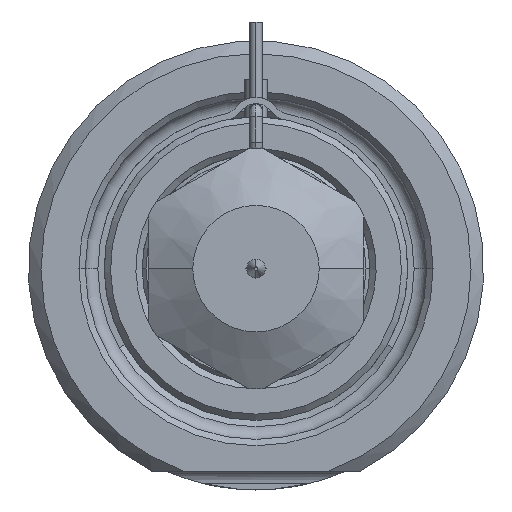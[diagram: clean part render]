
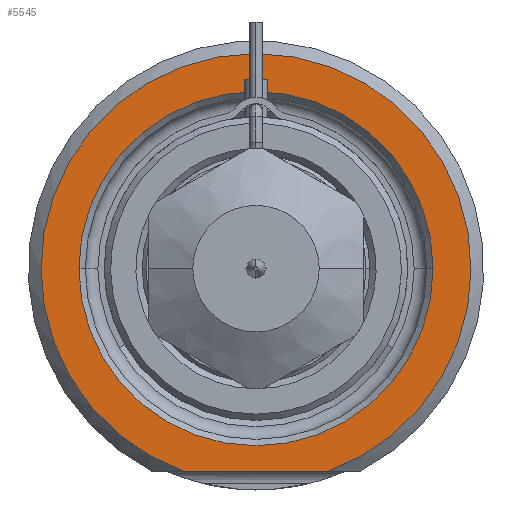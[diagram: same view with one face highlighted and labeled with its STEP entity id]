
A CAD part, front view. The second image highlights one B-rep face of the part: STEP entity #5545.
In plain terms, the highlighted planar face has unit normal (0, -1, 0).
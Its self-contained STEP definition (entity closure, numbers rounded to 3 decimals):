
#1980=DIRECTION('',(1.,0.,0.));
#1981=VECTOR('',#1980,11.489);
#1982=CARTESIAN_POINT('',(-5.745,0.,-16.));
#1983=LINE('',#1982,#1981);
#1984=CARTESIAN_POINT('',(0.,0.,0.));
#1985=DIRECTION('',(0.,1.,0.));
#1986=DIRECTION('',(-1.,0.,0.));
#1987=AXIS2_PLACEMENT_3D('',#1984,#1985,#1986);
#1989=CARTESIAN_POINT('',(0.,0.,0.));
#1990=DIRECTION('',(0.,1.,0.));
#1991=DIRECTION('',(1.,0.,0.));
#1992=AXIS2_PLACEMENT_3D('',#1989,#1990,#1991);
#2096=CARTESIAN_POINT('',(0.,0.,0.));
#2097=DIRECTION('',(0.,-1.,0.));
#2098=DIRECTION('',(0.338,0.,-0.941));
#2099=AXIS2_PLACEMENT_3D('',#2096,#2097,#2098);
#3038=CARTESIAN_POINT('',(-14.,0.,0.));
#3039=CARTESIAN_POINT('',(14.,0.,0.));
#3040=VERTEX_POINT('',#3038);
#3041=VERTEX_POINT('',#3039);
#3078=CARTESIAN_POINT('',(-5.745,0.,-16.));
#3079=CARTESIAN_POINT('',(5.745,0.,-16.));
#3080=VERTEX_POINT('',#3078);
#3081=VERTEX_POINT('',#3079);
#5529=CARTESIAN_POINT('',(0.,0.,0.));
#5530=DIRECTION('',(0.,-1.,0.));
#5531=DIRECTION('',(1.,0.,0.));
#5532=AXIS2_PLACEMENT_3D('',#5529,#5530,#5531);
#5533=PLANE('',#5532);
#5535=ORIENTED_EDGE('',*,*,#5534,.F.);
#5537=ORIENTED_EDGE('',*,*,#5536,.F.);
#5538=EDGE_LOOP('',(#5535,#5537));
#5539=FACE_OUTER_BOUND('',#5538,.F.);
#5541=ORIENTED_EDGE('',*,*,#5540,.F.);
#5542=ORIENTED_EDGE('',*,*,#5519,.F.);
#5543=EDGE_LOOP('',(#5541,#5542));
#5544=FACE_BOUND('',#5543,.F.);
#5545=ADVANCED_FACE('',(#5539,#5544),#5533,.T.);
#1988=CIRCLE('',#1987,14.);
#1993=CIRCLE('',#1992,14.);
#2100=CIRCLE('',#2099,17.);
#5519=EDGE_CURVE('',#3041,#3040,#1993,.T.);
#5534=EDGE_CURVE('',#3080,#3081,#1983,.T.);
#5536=EDGE_CURVE('',#3081,#3080,#2100,.T.);
#5540=EDGE_CURVE('',#3040,#3041,#1988,.T.);
